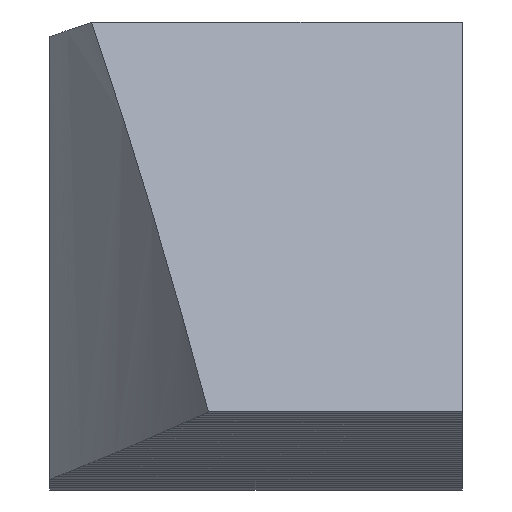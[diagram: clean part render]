
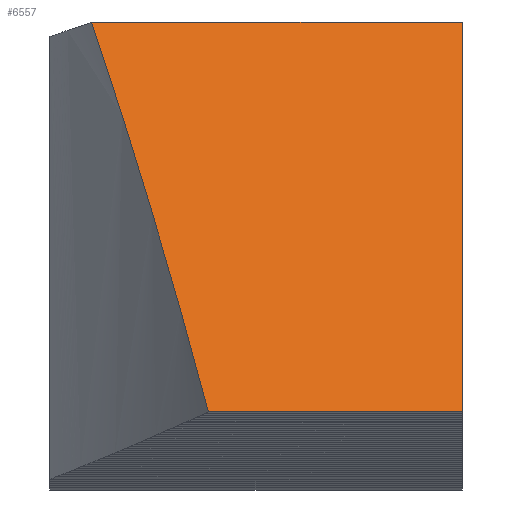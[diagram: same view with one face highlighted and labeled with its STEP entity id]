
A CAD part, top view. The second image highlights one B-rep face of the part: STEP entity #6557.
In plain terms, the highlighted planar face has unit normal (0, 0.326, 0.946).
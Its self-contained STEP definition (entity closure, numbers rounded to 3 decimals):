
#72 = PLANE('',#73);
#73 = AXIS2_PLACEMENT_3D('',#74,#75,#76);
#74 = CARTESIAN_POINT('',(89.,172.625,-67.13));
#75 = DIRECTION('',(1.,0.,0.));
#76 = DIRECTION('',(-0.,0.,1.));
#1174 = CYLINDRICAL_SURFACE('',#1175,92.);
#1175 = AXIS2_PLACEMENT_3D('',#1176,#1177,#1178);
#1176 = CARTESIAN_POINT('',(0.,-400.,0.));
#1177 = DIRECTION('',(0.,1.,0.));
#1178 = DIRECTION('',(0.,-0.,1.));
#2177 = VERTEX_POINT('',#2178);
#2178 = CARTESIAN_POINT('',(89.,187.213,-64.462));
#2192 = PLANE('',#2193);
#2193 = AXIS2_PLACEMENT_3D('',#2194,#2195,#2196);
#2194 = CARTESIAN_POINT('',(63.,187.082,-64.839));
#2195 = DIRECTION('',(0.,-0.945,0.327));
#2196 = DIRECTION('',(0.,0.327,0.945));
#2204 = EDGE_CURVE('',#2177,#2205,#2207,.T.);
#2205 = VERTEX_POINT('',#2206);
#2206 = CARTESIAN_POINT('',(89.,162.629,-55.998));
#2207 = SURFACE_CURVE('',#2208,(#2212,#2219),.PCURVE_S1.);
#2208 = LINE('',#2209,#2210);
#2209 = CARTESIAN_POINT('',(89.,187.213,-64.462));
#2210 = VECTOR('',#2211,1.);
#2211 = DIRECTION('',(0.,-0.946,0.326));
#2212 = PCURVE('',#72,#2213);
#2213 = DEFINITIONAL_REPRESENTATION('',(#2214),#2218);
#2214 = LINE('',#2215,#2216);
#2215 = CARTESIAN_POINT('',(2.668,-14.587));
#2216 = VECTOR('',#2217,1.);
#2217 = DIRECTION('',(0.326,0.946));
#2218 = ( GEOMETRIC_REPRESENTATION_CONTEXT(2) 
PARAMETRIC_REPRESENTATION_CONTEXT() REPRESENTATION_CONTEXT('2D SPACE',''
  ) );
#2219 = PCURVE('',#2220,#2225);
#2220 = PLANE('',#2221);
#2221 = AXIS2_PLACEMENT_3D('',#2222,#2223,#2224);
#2222 = CARTESIAN_POINT('',(63.,187.213,-64.462));
#2223 = DIRECTION('',(0.,-0.326,-0.946));
#2224 = DIRECTION('',(0.,-0.946,0.326));
#2225 = DEFINITIONAL_REPRESENTATION('',(#2226),#2230);
#2226 = LINE('',#2227,#2228);
#2227 = CARTESIAN_POINT('',(0.,-26.));
#2228 = VECTOR('',#2229,1.);
#2229 = DIRECTION('',(1.,0.));
#2230 = ( GEOMETRIC_REPRESENTATION_CONTEXT(2) 
PARAMETRIC_REPRESENTATION_CONTEXT() REPRESENTATION_CONTEXT('2D SPACE',''
  ) );
#2248 = PLANE('',#2249);
#2249 = AXIS2_PLACEMENT_3D('',#2250,#2251,#2252);
#2250 = CARTESIAN_POINT('',(63.,162.629,-55.998));
#2251 = DIRECTION('',(0.,0.945,-0.327));
#2252 = DIRECTION('',(0.,-0.327,-0.945));
#3724 = VERTEX_POINT('',#3725);
#3725 = CARTESIAN_POINT('',(65.64,187.213,
    -64.462));
#3750 = EDGE_CURVE('',#3724,#3751,#3753,.T.);
#3751 = VERTEX_POINT('',#3752);
#3752 = CARTESIAN_POINT('',(72.995,162.629,
    -55.998));
#3753 = SURFACE_CURVE('',#3754,(#3759,#3769),.PCURVE_S1.);
#3754 = ELLIPSE('',#3755,282.583,92.);
#3755 = AXIS2_PLACEMENT_3D('',#3756,#3757,#3758);
#3756 = CARTESIAN_POINT('',(0.,0.,0.));
#3757 = DIRECTION('',(0.,-0.326,-0.946));
#3758 = DIRECTION('',(0.,0.946,-0.326));
#3759 = PCURVE('',#1174,#3760);
#3760 = DEFINITIONAL_REPRESENTATION('',(#3761),#3768);
#3761 = B_SPLINE_CURVE_WITH_KNOTS('',5,(#3762,#3763,#3764,#3765,#3766,
    #3767),.UNSPECIFIED.,.F.,.F.,(6,6),(0.781,0.928),
  .PIECEWISE_BEZIER_KNOTS.);
#3762 = CARTESIAN_POINT('',(2.36,589.671));
#3763 = CARTESIAN_POINT('',(2.331,584.158));
#3764 = CARTESIAN_POINT('',(2.302,578.441));
#3765 = CARTESIAN_POINT('',(2.272,572.53));
#3766 = CARTESIAN_POINT('',(2.243,566.436));
#3767 = CARTESIAN_POINT('',(2.214,560.171));
#3768 = ( GEOMETRIC_REPRESENTATION_CONTEXT(2) 
PARAMETRIC_REPRESENTATION_CONTEXT() REPRESENTATION_CONTEXT('2D SPACE',''
  ) );
#3769 = PCURVE('',#2220,#3770);
#3770 = DEFINITIONAL_REPRESENTATION('',(#3771),#3775);
#3771 = ELLIPSE('',#3772,282.583,92.);
#3772 = AXIS2_PLACEMENT_2D('',#3773,#3774);
#3773 = CARTESIAN_POINT('',(198.,63.));
#3774 = DIRECTION('',(-1.,-0.));
#3775 = ( GEOMETRIC_REPRESENTATION_CONTEXT(2) 
PARAMETRIC_REPRESENTATION_CONTEXT() REPRESENTATION_CONTEXT('2D SPACE',''
  ) );
#6510 = EDGE_CURVE('',#3724,#2177,#6511,.T.);
#6511 = SURFACE_CURVE('',#6512,(#6516,#6523),.PCURVE_S1.);
#6512 = LINE('',#6513,#6514);
#6513 = CARTESIAN_POINT('',(63.,187.213,-64.462));
#6514 = VECTOR('',#6515,1.);
#6515 = DIRECTION('',(1.,0.,0.));
#6516 = PCURVE('',#2192,#6517);
#6517 = DEFINITIONAL_REPRESENTATION('',(#6518),#6522);
#6518 = LINE('',#6519,#6520);
#6519 = CARTESIAN_POINT('',(0.399,0.));
#6520 = VECTOR('',#6521,1.);
#6521 = DIRECTION('',(0.,-1.));
#6522 = ( GEOMETRIC_REPRESENTATION_CONTEXT(2) 
PARAMETRIC_REPRESENTATION_CONTEXT() REPRESENTATION_CONTEXT('2D SPACE',''
  ) );
#6523 = PCURVE('',#2220,#6524);
#6524 = DEFINITIONAL_REPRESENTATION('',(#6525),#6529);
#6525 = LINE('',#6526,#6527);
#6526 = CARTESIAN_POINT('',(0.,0.));
#6527 = VECTOR('',#6528,1.);
#6528 = DIRECTION('',(0.,-1.));
#6529 = ( GEOMETRIC_REPRESENTATION_CONTEXT(2) 
PARAMETRIC_REPRESENTATION_CONTEXT() REPRESENTATION_CONTEXT('2D SPACE',''
  ) );
#6557 = ADVANCED_FACE('',(#6558),#2220,.F.);
#6558 = FACE_BOUND('',#6559,.F.);
#6559 = EDGE_LOOP('',(#6560,#6561,#6562,#6563));
#6560 = ORIENTED_EDGE('',*,*,#3750,.F.);
#6561 = ORIENTED_EDGE('',*,*,#6510,.T.);
#6562 = ORIENTED_EDGE('',*,*,#2204,.T.);
#6563 = ORIENTED_EDGE('',*,*,#6564,.F.);
#6564 = EDGE_CURVE('',#3751,#2205,#6565,.T.);
#6565 = SURFACE_CURVE('',#6566,(#6570,#6577),.PCURVE_S1.);
#6566 = LINE('',#6567,#6568);
#6567 = CARTESIAN_POINT('',(63.,162.629,-55.998));
#6568 = VECTOR('',#6569,1.);
#6569 = DIRECTION('',(1.,0.,0.));
#6570 = PCURVE('',#2220,#6571);
#6571 = DEFINITIONAL_REPRESENTATION('',(#6572),#6576);
#6572 = LINE('',#6573,#6574);
#6573 = CARTESIAN_POINT('',(26.,0.));
#6574 = VECTOR('',#6575,1.);
#6575 = DIRECTION('',(0.,-1.));
#6576 = ( GEOMETRIC_REPRESENTATION_CONTEXT(2) 
PARAMETRIC_REPRESENTATION_CONTEXT() REPRESENTATION_CONTEXT('2D SPACE',''
  ) );
#6577 = PCURVE('',#2248,#6578);
#6578 = DEFINITIONAL_REPRESENTATION('',(#6579),#6583);
#6579 = LINE('',#6580,#6581);
#6580 = CARTESIAN_POINT('',(0.,0.));
#6581 = VECTOR('',#6582,1.);
#6582 = DIRECTION('',(0.,-1.));
#6583 = ( GEOMETRIC_REPRESENTATION_CONTEXT(2) 
PARAMETRIC_REPRESENTATION_CONTEXT() REPRESENTATION_CONTEXT('2D SPACE',''
  ) );
